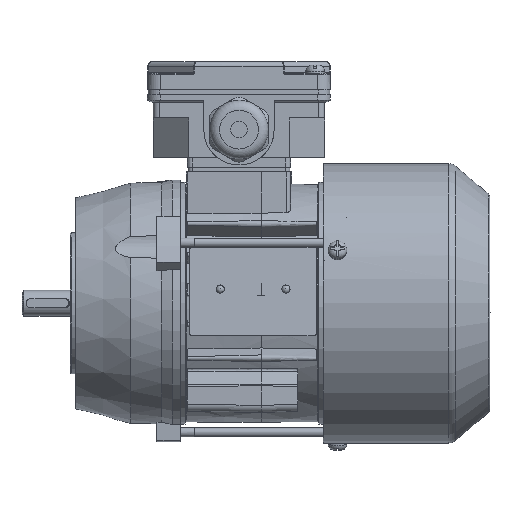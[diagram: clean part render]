
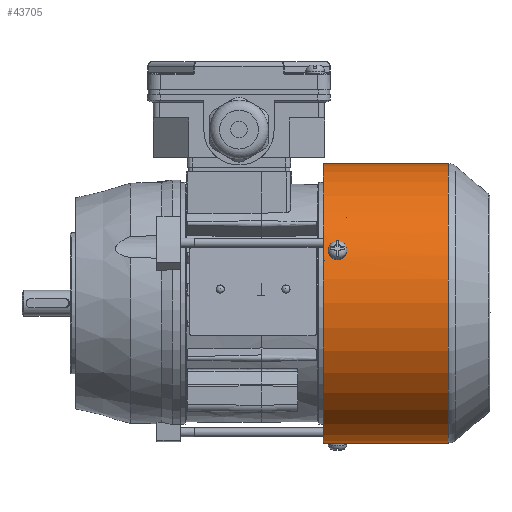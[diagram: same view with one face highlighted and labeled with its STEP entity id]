
A CAD part, front view. The second image highlights one B-rep face of the part: STEP entity #43705.
In plain terms, the highlighted cylindrical face has radius 59.6 mm (diameter 119.2 mm), a full revolution.
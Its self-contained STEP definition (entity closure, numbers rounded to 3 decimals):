
#831=B_SPLINE_CURVE_WITH_KNOTS('',3,(#65443,#65444,#65445,#65446,#65447,
#65448,#65449),.UNSPECIFIED.,.F.,.F.,(4,1,1,1,4),(0.,0.002,
0.004,0.006,0.008),
 .UNSPECIFIED.);
#833=B_SPLINE_CURVE_WITH_KNOTS('',3,(#65467,#65468,#65469,#65470,#65471,
#65472,#65473),.UNSPECIFIED.,.F.,.F.,(4,1,1,1,4),(0.,
0.002,0.004,0.006,0.008),
 .UNSPECIFIED.);
#835=B_SPLINE_CURVE_WITH_KNOTS('',3,(#65494,#65495,#65496,#65497,#65498,
#65499,#65500),.UNSPECIFIED.,.F.,.F.,(4,1,1,1,4),(0.,0.002,
0.004,0.006,0.008),
 .UNSPECIFIED.);
#837=B_SPLINE_CURVE_WITH_KNOTS('',3,(#65518,#65519,#65520,#65521,#65522,
#65523,#65524),.UNSPECIFIED.,.F.,.F.,(4,1,1,1,4),(0.,0.002,
0.004,0.006,0.008),
 .UNSPECIFIED.);
#838=B_SPLINE_CURVE_WITH_KNOTS('',3,(#65530,#65531,#65532,#65533,#65534,
#65535,#65536),.UNSPECIFIED.,.F.,.F.,(4,1,1,1,4),(0.,
0.002,0.004,0.006,0.007),
 .UNSPECIFIED.);
#839=B_SPLINE_CURVE_WITH_KNOTS('',3,(#65539,#65540,#65541,#65542,#65543,
#65544,#65545),.UNSPECIFIED.,.F.,.F.,(4,1,1,1,4),(0.,0.002,
0.004,0.006,0.007),
 .UNSPECIFIED.);
#2659=CIRCLE('',#45615,59.6);
#3091=CIRCLE('',#46499,59.6);
#3093=CIRCLE('',#46503,59.6);
#3094=CIRCLE('',#46505,59.6);
#3096=CIRCLE('',#46509,59.6);
#3098=CIRCLE('',#46514,59.6);
#10006=ORIENTED_EDGE('',*,*,#16202,.T.);
#10007=ORIENTED_EDGE('',*,*,#16199,.T.);
#10008=ORIENTED_EDGE('',*,*,#16207,.T.);
#10009=ORIENTED_EDGE('',*,*,#16205,.T.);
#10010=ORIENTED_EDGE('',*,*,#16208,.F.);
#10011=ORIENTED_EDGE('',*,*,#16209,.F.);
#10012=ORIENTED_EDGE('',*,*,#16189,.T.);
#10013=ORIENTED_EDGE('',*,*,#16186,.T.);
#10014=ORIENTED_EDGE('',*,*,#16194,.T.);
#10015=ORIENTED_EDGE('',*,*,#16192,.T.);
#10016=ORIENTED_EDGE('',*,*,#14910,.F.);
#10017=ORIENTED_EDGE('',*,*,#16195,.T.);
#14910=EDGE_CURVE('',#18953,#18953,#2659,.T.);
#16186=EDGE_CURVE('',#19812,#19815,#831,.T.);
#16189=EDGE_CURVE('',#19816,#19812,#3091,.F.);
#16192=EDGE_CURVE('',#19818,#19816,#833,.T.);
#16194=EDGE_CURVE('',#19815,#19818,#3093,.F.);
#16195=EDGE_CURVE('',#19820,#19820,#3094,.F.);
#16199=EDGE_CURVE('',#19821,#19824,#835,.T.);
#16202=EDGE_CURVE('',#19825,#19821,#3096,.F.);
#16205=EDGE_CURVE('',#19827,#19825,#837,.T.);
#16207=EDGE_CURVE('',#19824,#19827,#3098,.F.);
#16208=EDGE_CURVE('',#19829,#19830,#838,.T.);
#16209=EDGE_CURVE('',#19830,#19829,#839,.T.);
#18953=VERTEX_POINT('',#62768);
#19812=VERTEX_POINT('',#65431);
#19815=VERTEX_POINT('',#65442);
#19816=VERTEX_POINT('',#65452);
#19818=VERTEX_POINT('',#65458);
#19820=VERTEX_POINT('',#65479);
#19821=VERTEX_POINT('',#65482);
#19824=VERTEX_POINT('',#65493);
#19825=VERTEX_POINT('',#65503);
#19827=VERTEX_POINT('',#65509);
#19829=VERTEX_POINT('',#65537);
#19830=VERTEX_POINT('',#65538);
#26843=EDGE_LOOP('',(#10006,#10007,#10008,#10009));
#26844=EDGE_LOOP('',(#10010,#10011));
#26845=EDGE_LOOP('',(#10012,#10013,#10014,#10015));
#26846=EDGE_LOOP('',(#10016));
#26847=EDGE_LOOP('',(#10017));
#28972=FACE_BOUND('',#26843,.T.);
#28973=FACE_BOUND('',#26844,.T.);
#28974=FACE_BOUND('',#26845,.T.);
#28975=FACE_BOUND('',#26846,.T.);
#28976=FACE_BOUND('',#26847,.T.);
#29991=CYLINDRICAL_SURFACE('',#46515,59.6);
#43705=ADVANCED_FACE('',(#28972,#28973,#28974,#28975,#28976),#29991,.T.);
#45615=AXIS2_PLACEMENT_3D('',#62767,#50914,#50915);
#46499=AXIS2_PLACEMENT_3D('',#65455,#53507,#53508);
#46503=AXIS2_PLACEMENT_3D('',#65476,#53516,#53517);
#46505=AXIS2_PLACEMENT_3D('',#65478,#53520,#53521);
#46509=AXIS2_PLACEMENT_3D('',#65506,#53531,#53532);
#46514=AXIS2_PLACEMENT_3D('',#65528,#53542,#53543);
#46515=AXIS2_PLACEMENT_3D('',#65529,#53544,#53545);
#50914=DIRECTION('',(-1.,0.,0.));
#50915=DIRECTION('',(0.,0.,1.));
#53507=DIRECTION('',(-1.,0.,0.));
#53508=DIRECTION('',(0.,0.866,-0.5));
#53516=DIRECTION('',(1.,0.,0.));
#53517=DIRECTION('',(0.,-0.866,0.5));
#53520=DIRECTION('',(1.,0.,0.));
#53521=DIRECTION('',(0.,0.,-1.));
#53531=DIRECTION('',(-1.,0.,0.));
#53532=DIRECTION('',(0.,0.,1.));
#53542=DIRECTION('',(1.,0.,0.));
#53543=DIRECTION('',(0.,0.,-1.));
#53544=DIRECTION('',(-1.,0.,0.));
#53545=DIRECTION('',(0.,0.,1.));
#62767=CARTESIAN_POINT('',(26.5,0.,0.));
#62768=CARTESIAN_POINT('',(26.5,0.,59.6));
#65431=CARTESIAN_POINT('',(35.,46.437,37.36));
#65442=CARTESIAN_POINT('',(30.,46.437,37.36));
#65443=CARTESIAN_POINT('',(35.,46.437,37.36));
#65444=CARTESIAN_POINT('',(35.,46.023,37.874));
#65445=CARTESIAN_POINT('',(34.458,45.191,38.867));
#65446=CARTESIAN_POINT('',(32.502,44.648,39.479));
#65447=CARTESIAN_POINT('',(30.542,45.19,38.869));
#65448=CARTESIAN_POINT('',(30.,46.023,37.874));
#65449=CARTESIAN_POINT('',(30.,46.437,37.36));
#65452=CARTESIAN_POINT('',(35.,47.484,36.02));
#65455=CARTESIAN_POINT('',(35.,0.,0.));
#65458=CARTESIAN_POINT('',(30.,47.484,36.02));
#65467=CARTESIAN_POINT('',(30.,47.484,36.02));
#65468=CARTESIAN_POINT('',(30.,47.883,35.493));
#65469=CARTESIAN_POINT('',(30.542,48.645,34.446));
#65470=CARTESIAN_POINT('',(32.498,49.108,33.771));
#65471=CARTESIAN_POINT('',(34.458,48.646,34.444));
#65472=CARTESIAN_POINT('',(35.,47.883,35.493));
#65473=CARTESIAN_POINT('',(35.,47.484,36.02));
#65476=CARTESIAN_POINT('',(30.,0.,0.));
#65478=CARTESIAN_POINT('',(79.809,0.,0.));
#65479=CARTESIAN_POINT('',(79.809,0.,-59.6));
#65482=CARTESIAN_POINT('',(35.,-55.573,21.536));
#65493=CARTESIAN_POINT('',(30.,-55.573,21.536));
#65494=CARTESIAN_POINT('',(35.,-55.573,21.536));
#65495=CARTESIAN_POINT('',(35.,-55.812,20.92));
#65496=CARTESIAN_POINT('',(34.458,-56.255,19.703));
#65497=CARTESIAN_POINT('',(32.502,-56.514,18.927));
#65498=CARTESIAN_POINT('',(30.542,-56.256,19.701));
#65499=CARTESIAN_POINT('',(30.,-55.812,20.92));
#65500=CARTESIAN_POINT('',(30.,-55.573,21.536));
#65503=CARTESIAN_POINT('',(35.,-54.936,23.112));
#65506=CARTESIAN_POINT('',(35.,0.,0.));
#65509=CARTESIAN_POINT('',(30.,-54.936,23.112));
#65518=CARTESIAN_POINT('',(30.,-54.936,23.112));
#65519=CARTESIAN_POINT('',(30.,-54.68,23.721));
#65520=CARTESIAN_POINT('',(30.542,-54.154,24.905));
#65521=CARTESIAN_POINT('',(32.498,-53.8,25.643));
#65522=CARTESIAN_POINT('',(34.458,-54.153,24.907));
#65523=CARTESIAN_POINT('',(35.,-54.68,23.721));
#65524=CARTESIAN_POINT('',(35.,-54.936,23.112));
#65528=CARTESIAN_POINT('',(30.,0.,0.));
#65529=CARTESIAN_POINT('',(-33.5,0.,0.));
#65530=CARTESIAN_POINT('',(35.,8.295,-59.02));
#65531=CARTESIAN_POINT('',(34.937,7.681,-59.106));
#65532=CARTESIAN_POINT('',(34.356,6.499,-59.249));
#65533=CARTESIAN_POINT('',(32.502,5.777,-59.318));
#65534=CARTESIAN_POINT('',(30.649,6.493,-59.25));
#65535=CARTESIAN_POINT('',(30.063,7.681,-59.106));
#65536=CARTESIAN_POINT('',(30.,8.295,-59.02));
#65537=CARTESIAN_POINT('',(35.,8.295,-59.02));
#65538=CARTESIAN_POINT('',(30.,8.295,-59.02));
#65539=CARTESIAN_POINT('',(30.,8.295,-59.02));
#65540=CARTESIAN_POINT('',(30.063,8.908,-58.934));
#65541=CARTESIAN_POINT('',(30.644,10.084,-58.746));
#65542=CARTESIAN_POINT('',(32.498,10.797,-58.613));
#65543=CARTESIAN_POINT('',(34.351,10.09,-58.745));
#65544=CARTESIAN_POINT('',(34.937,8.908,-58.934));
#65545=CARTESIAN_POINT('',(35.,8.295,-59.02));
